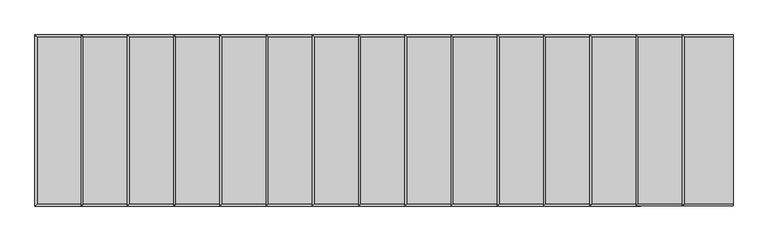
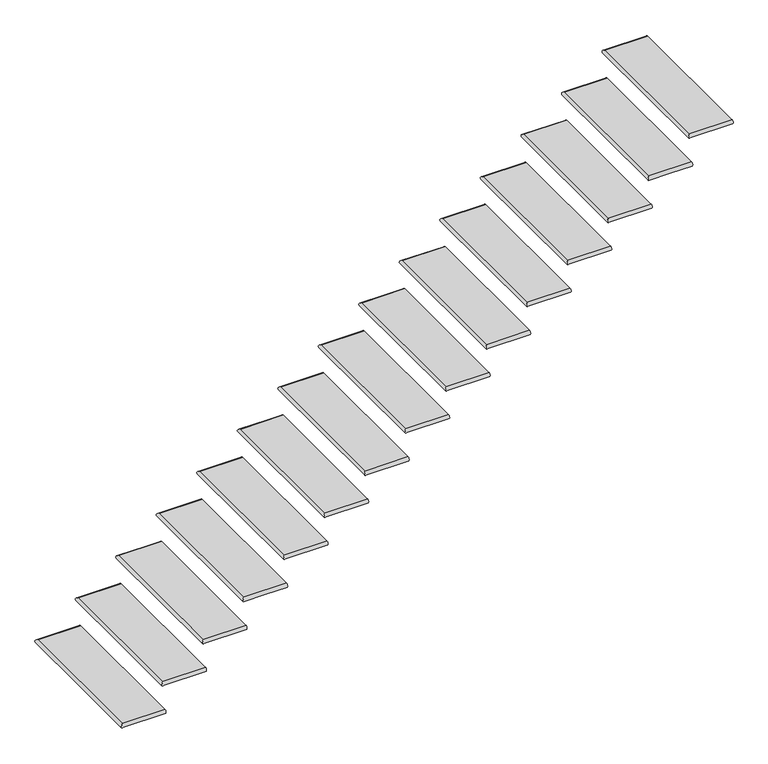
"""IFC4 building model written with IfcOpenShell, lengths in millimetres: stair flight geometry."""

import ifcopenshell
import ifcopenshell.guid

model = None  # the IFC model being written
_history = None  # IfcOwnerHistory: only IFC2X3 demands one
_inside = {}  # id of a spatial element -> (the spatial element, [elements in it])
_under = {}  # id of a project, library or spatial element -> (it, [spatial elements below it])
_declared = {}  # id of a project -> (the project, [libraries it declares])
_typed = {}  # id of a type object -> (the type object, [elements of that type])
_made_of = {}  # id of a material, layer set ... -> (it, [elements and type objects made of it])


def new_model(schema):
    """Start an empty IFC model of exactly this schema.

    Asked for "IFC4X3", IfcOpenShell would pick the latest addendum, in which some entities
    have other attributes; the version numbers below select the first issue.
    IFC2X3 requires an IfcOwnerHistory on every rooted entity: one is made here for all.
    """
    global model, _history
    if schema == "IFC4X3":
        model = ifcopenshell.file(schema_version=(4, 3, 0, 0))
    else:
        model = ifcopenshell.file(schema=schema)
    _inside.clear()
    _under.clear()
    _declared.clear()
    _typed.clear()
    _made_of.clear()
    _history = None
    if model.schema == "IFC2X3":
        org = make("IfcOrganization", Name="unknown")
        user = make(
            "IfcPersonAndOrganization",
            ThePerson=make("IfcPerson", FamilyName="unknown"),
            TheOrganization=org,
        )
        app = make(
            "IfcApplication",
            ApplicationDeveloper=org,
            Version="unknown",
            ApplicationFullName="unknown",
            ApplicationIdentifier="unknown",
        )
        _history = make(
            "IfcOwnerHistory",
            OwningUser=user,
            OwningApplication=app,
            ChangeAction="ADDED",
            CreationDate=0,
        )
    return model


def make(cls, **values):
    """One entity of the class cls with the attributes given. An attribute that is None is left unset."""
    return model.create_entity(
        cls, **{name: value for name, value in values.items() if value is not None}
    )


def rooted(cls, **values):
    """An entity with a GlobalId (a new one), such as an element, a storey or a relation."""
    return make(cls, GlobalId=ifcopenshell.guid.new(), OwnerHistory=_history, **values)


def si_unit(unit_type, name, prefix=None):
    """IfcSIUnit, for example si_unit("LENGTHUNIT", "METRE", prefix="MILLI")."""
    return make("IfcSIUnit", UnitType=unit_type, Prefix=prefix, Name=name)


def assignment(units):
    """IfcUnitAssignment: the units of a project."""
    return None if units is None else make("IfcUnitAssignment", Units=units)


def point(xyz):
    """IfcCartesianPoint."""
    return None if xyz is None else make("IfcCartesianPoint", Coordinates=xyz)


def direction(xyz):
    """IfcDirection."""
    return None if xyz is None else make("IfcDirection", DirectionRatios=xyz)


def frame(location, z_axis=None, x_axis=None):
    """IfcAxis2Placement3D, a coordinate frame: its origin and axes. An axis left out is left unset."""
    return make(
        "IfcAxis2Placement3D",
        Location=point(location),
        Axis=direction(z_axis),
        RefDirection=direction(x_axis),
    )


def origin():
    """The frame at (0, 0, 0) with its axes left unset."""
    return frame((0.0, 0.0, 0.0))


def place(relative_to, where):
    """IfcLocalPlacement: puts the frame where relative to a parent placement (None: the world)."""
    return make(
        "IfcLocalPlacement", PlacementRelTo=relative_to, RelativePlacement=where
    )


def context(
    kind, dimensions, precision=None, world=None, true_north=None, identifier=None
):
    """IfcGeometricRepresentationContext, for example the 3D "Model" context."""
    return make(
        "IfcGeometricRepresentationContext",
        ContextIdentifier=identifier,
        ContextType=kind,
        CoordinateSpaceDimension=dimensions,
        Precision=precision,
        WorldCoordinateSystem=world,
        TrueNorth=true_north,
    )


def project(units=None, contexts=None):
    """IfcProject with its units and contexts."""
    return rooted(
        "IfcProject",
        Name="project",
        RepresentationContexts=contexts,
        UnitsInContext=assignment(units),
    )


def spatial(cls, under=None, at=None, **own):
    """A site, building, storey or space (cls), placed at a placement, below another one or the project."""
    s = rooted(cls, ObjectPlacement=at, **own)
    if under is not None:
        _under.setdefault(under.id(), (under, []))[1].append(s)
    return s


def circle_curve(where, radius):
    """IfcCircle in the frame where."""
    return make("IfcCircle", Position=where, Radius=radius)


def ellipse_curve(where, semi_axis1, semi_axis2):
    """IfcEllipse in the frame where."""
    return make(
        "IfcEllipse", Position=where, SemiAxis1=semi_axis1, SemiAxis2=semi_axis2
    )


def shape(context_of_items, identifier, shape_type, items):
    """IfcShapeRepresentation: the items that make up one representation, for example the "Body"."""
    return make(
        "IfcShapeRepresentation",
        ContextOfItems=context_of_items,
        RepresentationIdentifier=identifier,
        RepresentationType=shape_type,
        Items=items,
    )


def source(mapping_origin, context_of_items, identifier, shape_type, items):
    """IfcRepresentationMap: a shape defined once, which mapped items show again and again."""
    return make(
        "IfcRepresentationMap",
        MappingOrigin=mapping_origin,
        MappedRepresentation=shape(context_of_items, identifier, shape_type, items),
    )


def transform(
    local_origin,
    x_axis=None,
    y_axis=None,
    z_axis=None,
    scale=None,
    scale2=None,
    scale3=None,
    uniform=True,
):
    """IfcCartesianTransformationOperator3D, or its non-uniform kind. x_axis, y_axis, z_axis: its Axis1, 2, 3."""
    if uniform:
        return make(
            "IfcCartesianTransformationOperator3D",
            Axis1=direction(x_axis),
            Axis2=direction(y_axis),
            LocalOrigin=point(local_origin),
            Scale=scale,
            Axis3=direction(z_axis),
        )
    return make(
        "IfcCartesianTransformationOperator3DnonUniform",
        Axis1=direction(x_axis),
        Axis2=direction(y_axis),
        LocalOrigin=point(local_origin),
        Scale=scale,
        Axis3=direction(z_axis),
        Scale2=scale2,
        Scale3=scale3,
    )


def mapped(mapping_source, mapping_target):
    """IfcMappedItem: shows the shape of a source again, moved by a transform."""
    return make(
        "IfcMappedItem", MappingSource=mapping_source, MappingTarget=mapping_target
    )


def made_of(thing, what):
    """Note that an element or type object is made of a material, layer set ...; save() writes the relation."""
    if what is not None:
        _made_of.setdefault(what.id(), (what, []))[1].append(thing)
    return thing


def element(
    cls,
    number,
    at=None,
    inside=None,
    cuts=None,
    type_object=None,
    material=None,
    context=None,
    identifier="Body",
    shape_type=None,
    held_by="IfcProductDefinitionShape",
    body=None,
    shapes=None,
    **own,
):
    """One element of the class cls, such as IfcWall. Its Tag is "e" and its number.

    at: its placement. inside: the storey or other place that contains it. cuts: it is an
    opening in that element (IfcRelVoidsElement). A single representation is given by context,
    identifier, shape_type and body (its items); several are given by shapes. held_by: the class
    of the entity that holds the representations. save() writes the other relations.
    """
    e = rooted(cls, Tag="e%d" % number, ObjectPlacement=at, **own)
    if body is not None:
        shapes = [shape(context, identifier, shape_type, body)]
    if shapes is not None:
        e.Representation = make(held_by, Representations=shapes)
    if inside is not None:
        _inside.setdefault(inside.id(), (inside, []))[1].append(e)
    if cuts is not None:
        rooted(
            "IfcRelVoidsElement", RelatingBuildingElement=cuts, RelatedOpeningElement=e
        )
    if type_object is not None:
        _typed.setdefault(type_object.id(), (type_object, []))[1].append(e)
    return made_of(e, material)


def aggregate(whole, parts):
    """IfcRelAggregates: a whole, such as a stair, and the parts it consists of."""
    return rooted("IfcRelAggregates", RelatingObject=whole, RelatedObjects=parts)


def save(model, path):
    """Write the relations noted so far, then the file.

    IfcRelAggregates (storeys below a building ...), IfcRelContainedInSpatialStructure (elements
    in a storey), IfcRelDefinesByType, IfcRelAssociatesMaterial and IfcRelDeclares: one each for
    every whole, place, type object, material and project.
    """
    for whole, parts in _under.values():
        aggregate(whole, parts)
    for where, things in _inside.values():
        rooted(
            "IfcRelContainedInSpatialStructure",
            RelatedElements=things,
            RelatingStructure=where,
        )
    for kind, things in _typed.values():
        rooted("IfcRelDefinesByType", RelatedObjects=things, RelatingType=kind)
    for what, things in _made_of.values():
        rooted("IfcRelAssociatesMaterial", RelatedObjects=things, RelatingMaterial=what)
    for by, libraries in _declared.values():
        rooted("IfcRelDeclares", RelatingContext=by, RelatedDefinitions=libraries)
    model.write(path)


def plane_surface(at):
    """IfcPlane: the flat surface through the origin of the frame at, square to its z axis."""
    return make("IfcPlane", Position=at)


def cylinder_surface(at, radius):
    """IfcCylindricalSurface: all points at the distance radius from the z axis of the frame at."""
    return make("IfcCylindricalSurface", Position=at, Radius=radius)


def advanced_brep(points, edges, surfaces, faces):
    """IfcAdvancedBrep: a solid bounded by faces that lie on surfaces and meet in shared edges.

    An edge is (start, end): straight between two places in points (the first is 0);
    or (start, end, curve); or (start, end, curve, False) where it runs against its curve.
    A face is (place in surfaces, loops), or (place, loops, False) where it looks against
    its surface's normal. A loop lists edges by number (the first is 1), with a minus sign
    where the edge is run from its end to its start. The first loop is the outer one.
    """
    corners = [point(p) for p in points]
    vertices = [make("IfcVertexPoint", VertexGeometry=c) for c in corners]
    made = []
    for start, end, *more in edges:
        made.append(
            make(
                "IfcEdgeCurve",
                EdgeStart=vertices[start],
                EdgeEnd=vertices[end],
                EdgeGeometry=more[0] if more else make("IfcPolyline", Points=[corners[start], corners[end]]),
                SameSense=more[1] if len(more) > 1 else True,
            )
        )
    hull = []
    for where, loops, *sense in faces:
        bounds = []
        for j, loop in enumerate(loops):
            ring = [make("IfcOrientedEdge", EdgeElement=made[abs(k) - 1], Orientation=k > 0) for k in loop]
            bounds.append(
                make(
                    "IfcFaceOuterBound" if j == 0 else "IfcFaceBound",
                    Bound=make("IfcEdgeLoop", EdgeList=ring),
                    Orientation=True,
                )
            )
        hull.append(make("IfcAdvancedFace", Bounds=bounds, FaceSurface=surfaces[where], SameSense=sense[0] if sense else True))
    return make("IfcAdvancedBrep", Outer=make("IfcClosedShell", CfsFaces=hull))


def stair_flight_c9529e75(model_context):
    return source(origin(), model_context, "Body", "AdvancedBrep", [
        advanced_brep(
        [(-27218.1481446, -11284.0871906, 165.1), (-27218.1481446, -11284.0871906, 190.5), (-27218.1481446, -10369.6871906, 190.5), (-27218.1481446, -10369.6871906, 165.1), (-26951.4481446, -11284.0871906, 190.5), (-26951.4481446, -10369.6871906, 190.5), (-26951.4481446, -10369.6871906, 165.1), (-26951.4481446, -11284.0871906, 165.1)],
        [
            (0, 1, ellipse_curve(frame((-27218.1481446, -11284.0871906, 177.8), z_axis=(-0.7071067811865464, 0.7071067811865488, 0.0), x_axis=(-0.7071067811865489, -0.707106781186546, 0.0)), 17.9605122, 12.7)),
            (1, 2),
            (2, 3, ellipse_curve(frame((-27218.1481446, -10369.6871906, 177.8), z_axis=(-0.7071067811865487, -0.7071067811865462, 0.0), x_axis=(0.7071067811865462, -0.707106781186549, 0.0)), 17.9605122, 12.7)),
            (3, 0),
            (4, 5),
            (5, 2),
            (1, 4),
            (6, 7),
            (7, 0),
            (3, 6),
            (4, 7, circle_curve(frame((-26951.4481446, -11284.0871906, 177.8), z_axis=(1.0, 0.0, 0.0), x_axis=(0.0, 1.0, 0.0)), 12.7)),
            (6, 5, circle_curve(frame((-26951.4481446, -10369.6871906, 177.8), z_axis=(1.0, 0.0, 0.0), x_axis=(0.0, -1.0, 0.0)), 12.7)),
        ],
        [
            cylinder_surface(frame((-27218.1481446, -11284.0871906, 177.8), z_axis=(0.0, -1.0, 0.0), x_axis=(1.0, 0.0, 0.0)), 12.7),
            plane_surface(frame((-27230.8481446, -10369.6871906, 190.5), z_axis=(0.0, 0.0, 1.0), x_axis=(-1.0, 0.0, 0.0))),
            plane_surface(frame((-27230.8481446, -10369.6871906, 165.1), z_axis=(0.0, 0.0, -1.0), x_axis=(1.0, 0.0, 0.0))),
            plane_surface(frame((-26951.4481446, -11284.0871906, 190.5), z_axis=(1.0, 0.0, 0.0), x_axis=(0.0, 0.0, -1.0))),
            cylinder_surface(frame((-26951.4481446, -11284.0871906, 177.8), z_axis=(1.0, 0.0, 0.0), x_axis=(0.0, 1.0, 0.0)), 12.7),
            cylinder_surface(frame((-27218.1481446, -10369.6871906, 177.8), z_axis=(-1.0, 0.0, 0.0), x_axis=(0.0, -1.0, 0.0)), 12.7),
        ],
        [
            (0, [[1, 2, 3, 4]]),
            (1, [[5, 6, -2, 7]]),
            (2, [[8, 9, -4, 10]]),
            (3, [[-5, 11, -8, 12]]),
            (4, [[-11, -7, -1, -9]]),
            (5, [[-3, -6, -12, -10]]),
        ],
    ),
        advanced_brep(
        [(-26697.4481446, -11284.0871906, 381.0), (-26697.4481446, -10369.6871906, 381.0), (-26964.1481446, -10369.6871906, 381.0), (-26964.1481446, -11284.0871906, 381.0), (-26697.4481446, -10369.6871906, 355.6), (-26697.4481446, -11284.0871906, 355.6), (-26964.1481446, -11284.0871906, 355.6), (-26964.1481446, -10369.6871906, 355.6)],
        [
            (0, 1),
            (1, 2),
            (2, 3),
            (3, 0),
            (4, 5),
            (5, 6),
            (6, 7),
            (7, 4),
            (0, 5, circle_curve(frame((-26697.4481446, -11284.0871906, 368.3), z_axis=(1.0, 0.0, 0.0), x_axis=(0.0, 1.0, 0.0)), 12.7)),
            (4, 1, circle_curve(frame((-26697.4481446, -10369.6871906, 368.3), z_axis=(1.0, 0.0, 0.0), x_axis=(0.0, -1.0, 0.0)), 12.7)),
            (3, 6, ellipse_curve(frame((-26964.1481446, -11284.0871906, 368.3), z_axis=(0.7071067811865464, -0.7071067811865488, 0.0), x_axis=(0.7071067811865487, 0.7071067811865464, 0.0)), 17.9605122, 12.7)),
            (2, 7, ellipse_curve(frame((-26964.1481446, -10369.6871906, 368.3), z_axis=(-0.7071067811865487, -0.7071067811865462, 0.0), x_axis=(0.7071067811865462, -0.707106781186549, 0.0)), 17.9605122, 12.7)),
        ],
        [
            plane_surface(frame((-26976.8481446, -10369.6871906, 381.0), z_axis=(0.0, 0.0, 1.0), x_axis=(-1.0, 0.0, 0.0))),
            plane_surface(frame((-26976.8481446, -10369.6871906, 355.6), z_axis=(0.0, 0.0, -1.0), x_axis=(1.0, 0.0, 0.0))),
            plane_surface(frame((-26697.4481446, -11284.0871906, 381.0), z_axis=(1.0, 0.0, 0.0), x_axis=(0.0, 0.0, -1.0))),
            cylinder_surface(frame((-26697.4481446, -11284.0871906, 368.3), z_axis=(1.0, 0.0, 0.0), x_axis=(0.0, 1.0, 0.0)), 12.7),
            cylinder_surface(frame((-26964.1481446, -11284.0871906, 368.3), z_axis=(0.0, -1.0, 0.0), x_axis=(1.0, 0.0, 0.0)), 12.7),
            cylinder_surface(frame((-26964.1481446, -10369.6871906, 368.3), z_axis=(-1.0, 0.0, 0.0), x_axis=(0.0, -1.0, 0.0)), 12.7),
        ],
        [
            (0, [[1, 2, 3, 4]]),
            (1, [[5, 6, 7, 8]]),
            (2, [[-1, 9, -5, 10]]),
            (3, [[-9, -4, 11, -6]]),
            (4, [[-11, -3, 12, -7]]),
            (5, [[-12, -2, -10, -8]]),
        ],
    ),
        advanced_brep(
        [(-26443.4481446, -11284.0871906, 571.5), (-26443.4481446, -10369.6871906, 571.5), (-26710.1481446, -10369.6871906, 571.5), (-26710.1481446, -11284.0871906, 571.5), (-26443.4481446, -10369.6871906, 546.1), (-26443.4481446, -11284.0871906, 546.1), (-26710.1481446, -11284.0871906, 546.1), (-26710.1481446, -10369.6871906, 546.1)],
        [
            (0, 1),
            (1, 2),
            (2, 3),
            (3, 0),
            (4, 5),
            (5, 6),
            (6, 7),
            (7, 4),
            (0, 5, circle_curve(frame((-26443.4481446, -11284.0871906, 558.8), z_axis=(1.0, 0.0, 0.0), x_axis=(0.0, 1.0, 0.0)), 12.7)),
            (4, 1, circle_curve(frame((-26443.4481446, -10369.6871906, 558.8), z_axis=(1.0, 0.0, 0.0), x_axis=(0.0, -1.0, 0.0)), 12.7)),
            (3, 6, ellipse_curve(frame((-26710.1481446, -11284.0871906, 558.8), z_axis=(0.7071067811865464, -0.7071067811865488, 0.0), x_axis=(0.7071067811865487, 0.7071067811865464, 0.0)), 17.9605122, 12.7)),
            (2, 7, ellipse_curve(frame((-26710.1481446, -10369.6871906, 558.8), z_axis=(-0.7071067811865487, -0.7071067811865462, 0.0), x_axis=(0.7071067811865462, -0.707106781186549, 0.0)), 17.9605122, 12.7)),
        ],
        [
            plane_surface(frame((-26722.8481446, -10369.6871906, 571.5), z_axis=(0.0, 0.0, 1.0), x_axis=(-1.0, 0.0, 0.0))),
            plane_surface(frame((-26722.8481446, -10369.6871906, 546.1), z_axis=(0.0, 0.0, -1.0), x_axis=(1.0, 0.0, 0.0))),
            plane_surface(frame((-26443.4481446, -11284.0871906, 571.5), z_axis=(1.0, 0.0, 0.0), x_axis=(0.0, 0.0, -1.0))),
            cylinder_surface(frame((-26443.4481446, -11284.0871906, 558.8), z_axis=(1.0, 0.0, 0.0), x_axis=(0.0, 1.0, 0.0)), 12.7),
            cylinder_surface(frame((-26710.1481446, -11284.0871906, 558.8), z_axis=(0.0, -1.0, 0.0), x_axis=(1.0, 0.0, 0.0)), 12.7),
            cylinder_surface(frame((-26710.1481446, -10369.6871906, 558.8), z_axis=(-1.0, 0.0, 0.0), x_axis=(0.0, -1.0, 0.0)), 12.7),
        ],
        [
            (0, [[1, 2, 3, 4]]),
            (1, [[5, 6, 7, 8]]),
            (2, [[-1, 9, -5, 10]]),
            (3, [[-9, -4, 11, -6]]),
            (4, [[-11, -3, 12, -7]]),
            (5, [[-12, -2, -10, -8]]),
        ],
    ),
        advanced_brep(
        [(-26189.4481446, -11284.0871906, 762.0), (-26189.4481446, -10369.6871906, 762.0), (-26456.1481446, -10369.6871906, 762.0), (-26456.1481446, -11284.0871906, 762.0), (-26189.4481446, -10369.6871906, 736.6), (-26189.4481446, -11284.0871906, 736.6), (-26456.1481446, -11284.0871906, 736.6), (-26456.1481446, -10369.6871906, 736.6)],
        [
            (0, 1),
            (1, 2),
            (2, 3),
            (3, 0),
            (4, 5),
            (5, 6),
            (6, 7),
            (7, 4),
            (0, 5, circle_curve(frame((-26189.4481446, -11284.0871906, 749.3), z_axis=(1.0, 0.0, 0.0), x_axis=(0.0, 1.0, 0.0)), 12.7)),
            (4, 1, circle_curve(frame((-26189.4481446, -10369.6871906, 749.3), z_axis=(1.0, 0.0, 0.0), x_axis=(0.0, -1.0, 0.0)), 12.7)),
            (3, 6, ellipse_curve(frame((-26456.1481446, -11284.0871906, 749.3), z_axis=(0.7071067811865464, -0.7071067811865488, 0.0), x_axis=(0.7071067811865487, 0.7071067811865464, 0.0)), 17.9605122, 12.7)),
            (2, 7, ellipse_curve(frame((-26456.1481446, -10369.6871906, 749.3), z_axis=(-0.7071067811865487, -0.7071067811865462, 0.0), x_axis=(0.7071067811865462, -0.707106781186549, 0.0)), 17.9605122, 12.7)),
        ],
        [
            plane_surface(frame((-26468.8481446, -10369.6871906, 762.0), z_axis=(0.0, 0.0, 1.0), x_axis=(-1.0, 0.0, 0.0))),
            plane_surface(frame((-26468.8481446, -10369.6871906, 736.6), z_axis=(0.0, 0.0, -1.0), x_axis=(1.0, 0.0, 0.0))),
            plane_surface(frame((-26189.4481446, -11284.0871906, 762.0), z_axis=(1.0, 0.0, 0.0), x_axis=(0.0, 0.0, -1.0))),
            cylinder_surface(frame((-26189.4481446, -11284.0871906, 749.3), z_axis=(1.0, 0.0, 0.0), x_axis=(0.0, 1.0, 0.0)), 12.7),
            cylinder_surface(frame((-26456.1481446, -11284.0871906, 749.3), z_axis=(0.0, -1.0, 0.0), x_axis=(1.0, 0.0, 0.0)), 12.7),
            cylinder_surface(frame((-26456.1481446, -10369.6871906, 749.3), z_axis=(-1.0, 0.0, 0.0), x_axis=(0.0, -1.0, 0.0)), 12.7),
        ],
        [
            (0, [[1, 2, 3, 4]]),
            (1, [[5, 6, 7, 8]]),
            (2, [[-1, 9, -5, 10]]),
            (3, [[-9, -4, 11, -6]]),
            (4, [[-11, -3, 12, -7]]),
            (5, [[-12, -2, -10, -8]]),
        ],
    ),
        advanced_brep(
        [(-25935.4481446, -11284.0871906, 952.5), (-25935.4481446, -10369.6871906, 952.5), (-26202.1481446, -10369.6871906, 952.5), (-26202.1481446, -11284.0871906, 952.5), (-25935.4481446, -10369.6871906, 927.1), (-25935.4481446, -11284.0871906, 927.1), (-26202.1481446, -11284.0871906, 927.1), (-26202.1481446, -10369.6871906, 927.1)],
        [
            (0, 1),
            (1, 2),
            (2, 3),
            (3, 0),
            (4, 5),
            (5, 6),
            (6, 7),
            (7, 4),
            (0, 5, circle_curve(frame((-25935.4481446, -11284.0871906, 939.8), z_axis=(1.0, 0.0, 0.0), x_axis=(0.0, 1.0, 0.0)), 12.7)),
            (4, 1, circle_curve(frame((-25935.4481446, -10369.6871906, 939.8), z_axis=(1.0, 0.0, 0.0), x_axis=(0.0, -1.0, 0.0)), 12.7)),
            (3, 6, ellipse_curve(frame((-26202.1481446, -11284.0871906, 939.8), z_axis=(0.7071067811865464, -0.7071067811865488, 0.0), x_axis=(0.7071067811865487, 0.7071067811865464, 0.0)), 17.9605122, 12.7)),
            (2, 7, ellipse_curve(frame((-26202.1481446, -10369.6871906, 939.8), z_axis=(-0.7071067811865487, -0.7071067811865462, 0.0), x_axis=(0.7071067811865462, -0.707106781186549, 0.0)), 17.9605122, 12.7)),
        ],
        [
            plane_surface(frame((-26214.8481446, -10369.6871906, 952.5), z_axis=(0.0, 0.0, 1.0), x_axis=(-1.0, 0.0, 0.0))),
            plane_surface(frame((-26214.8481446, -10369.6871906, 927.1), z_axis=(0.0, 0.0, -1.0), x_axis=(1.0, 0.0, 0.0))),
            plane_surface(frame((-25935.4481446, -11284.0871906, 952.5), z_axis=(1.0, 0.0, 0.0), x_axis=(0.0, 0.0, -1.0))),
            cylinder_surface(frame((-25935.4481446, -11284.0871906, 939.8), z_axis=(1.0, 0.0, 0.0), x_axis=(0.0, 1.0, 0.0)), 12.7),
            cylinder_surface(frame((-26202.1481446, -11284.0871906, 939.8), z_axis=(0.0, -1.0, 0.0), x_axis=(1.0, 0.0, 0.0)), 12.7),
            cylinder_surface(frame((-26202.1481446, -10369.6871906, 939.8), z_axis=(-1.0, 0.0, 0.0), x_axis=(0.0, -1.0, 0.0)), 12.7),
        ],
        [
            (0, [[1, 2, 3, 4]]),
            (1, [[5, 6, 7, 8]]),
            (2, [[-1, 9, -5, 10]]),
            (3, [[-9, -4, 11, -6]]),
            (4, [[-11, -3, 12, -7]]),
            (5, [[-12, -2, -10, -8]]),
        ],
    ),
        advanced_brep(
        [(-25681.4481446, -11284.0871906, 1143.0), (-25681.4481446, -10369.6871906, 1143.0), (-25948.1481446, -10369.6871906, 1143.0), (-25948.1481446, -11284.0871906, 1143.0), (-25681.4481446, -10369.6871906, 1117.6), (-25681.4481446, -11284.0871906, 1117.6), (-25948.1481446, -11284.0871906, 1117.6), (-25948.1481446, -10369.6871906, 1117.6)],
        [
            (0, 1),
            (1, 2),
            (2, 3),
            (3, 0),
            (4, 5),
            (5, 6),
            (6, 7),
            (7, 4),
            (0, 5, circle_curve(frame((-25681.4481446, -11284.0871906, 1130.3), z_axis=(1.0, 0.0, 0.0), x_axis=(0.0, 1.0, 0.0)), 12.7)),
            (4, 1, circle_curve(frame((-25681.4481446, -10369.6871906, 1130.3), z_axis=(1.0, 0.0, 0.0), x_axis=(0.0, -1.0, 0.0)), 12.7)),
            (3, 6, ellipse_curve(frame((-25948.1481446, -11284.0871906, 1130.3), z_axis=(0.7071067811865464, -0.7071067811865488, 0.0), x_axis=(0.7071067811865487, 0.7071067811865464, 0.0)), 17.9605122, 12.7)),
            (2, 7, ellipse_curve(frame((-25948.1481446, -10369.6871906, 1130.3), z_axis=(-0.7071067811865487, -0.7071067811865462, 0.0), x_axis=(0.7071067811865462, -0.707106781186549, 0.0)), 17.9605122, 12.7)),
        ],
        [
            plane_surface(frame((-25960.8481446, -10369.6871906, 1143.0), z_axis=(0.0, 0.0, 1.0), x_axis=(-1.0, 0.0, 0.0))),
            plane_surface(frame((-25960.8481446, -10369.6871906, 1117.6), z_axis=(0.0, 0.0, -1.0), x_axis=(1.0, 0.0, 0.0))),
            plane_surface(frame((-25681.4481446, -11284.0871906, 1143.0), z_axis=(1.0, 0.0, 0.0), x_axis=(0.0, 0.0, -1.0))),
            cylinder_surface(frame((-25681.4481446, -11284.0871906, 1130.3), z_axis=(1.0, 0.0, 0.0), x_axis=(0.0, 1.0, 0.0)), 12.7),
            cylinder_surface(frame((-25948.1481446, -11284.0871906, 1130.3), z_axis=(0.0, -1.0, 0.0), x_axis=(1.0, 0.0, 0.0)), 12.7),
            cylinder_surface(frame((-25948.1481446, -10369.6871906, 1130.3), z_axis=(-1.0, 0.0, 0.0), x_axis=(0.0, -1.0, 0.0)), 12.7),
        ],
        [
            (0, [[1, 2, 3, 4]]),
            (1, [[5, 6, 7, 8]]),
            (2, [[-1, 9, -5, 10]]),
            (3, [[-9, -4, 11, -6]]),
            (4, [[-11, -3, 12, -7]]),
            (5, [[-12, -2, -10, -8]]),
        ],
    ),
        advanced_brep(
        [(-25427.4481446, -11284.0871906, 1333.5), (-25427.4481446, -10369.6871906, 1333.5), (-25694.1481446, -10369.6871906, 1333.5), (-25694.1481446, -11284.0871906, 1333.5), (-25427.4481446, -10369.6871906, 1308.1), (-25427.4481446, -11284.0871906, 1308.1), (-25694.1481446, -11284.0871906, 1308.1), (-25694.1481446, -10369.6871906, 1308.1)],
        [
            (0, 1),
            (1, 2),
            (2, 3),
            (3, 0),
            (4, 5),
            (5, 6),
            (6, 7),
            (7, 4),
            (0, 5, circle_curve(frame((-25427.4481446, -11284.0871906, 1320.8), z_axis=(1.0, 0.0, 0.0), x_axis=(0.0, 1.0, 0.0)), 12.7)),
            (4, 1, circle_curve(frame((-25427.4481446, -10369.6871906, 1320.8), z_axis=(1.0, 0.0, 0.0), x_axis=(0.0, -1.0, 0.0)), 12.7)),
            (3, 6, ellipse_curve(frame((-25694.1481446, -11284.0871906, 1320.8), z_axis=(0.7071067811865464, -0.7071067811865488, 0.0), x_axis=(0.7071067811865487, 0.7071067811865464, 0.0)), 17.9605122, 12.7)),
            (2, 7, ellipse_curve(frame((-25694.1481446, -10369.6871906, 1320.8), z_axis=(-0.7071067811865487, -0.7071067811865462, 0.0), x_axis=(0.7071067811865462, -0.707106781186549, 0.0)), 17.9605122, 12.7)),
        ],
        [
            plane_surface(frame((-25706.8481446, -10369.6871906, 1333.5), z_axis=(0.0, 0.0, 1.0), x_axis=(-1.0, 0.0, 0.0))),
            plane_surface(frame((-25706.8481446, -10369.6871906, 1308.1), z_axis=(0.0, 0.0, -1.0), x_axis=(1.0, 0.0, 0.0))),
            plane_surface(frame((-25427.4481446, -11284.0871906, 1333.5), z_axis=(1.0, 0.0, 0.0), x_axis=(0.0, 0.0, -1.0))),
            cylinder_surface(frame((-25427.4481446, -11284.0871906, 1320.8), z_axis=(1.0, 0.0, 0.0), x_axis=(0.0, 1.0, 0.0)), 12.7),
            cylinder_surface(frame((-25694.1481446, -11284.0871906, 1320.8), z_axis=(0.0, -1.0, 0.0), x_axis=(1.0, 0.0, 0.0)), 12.7),
            cylinder_surface(frame((-25694.1481446, -10369.6871906, 1320.8), z_axis=(-1.0, 0.0, 0.0), x_axis=(0.0, -1.0, 0.0)), 12.7),
        ],
        [
            (0, [[1, 2, 3, 4]]),
            (1, [[5, 6, 7, 8]]),
            (2, [[-1, 9, -5, 10]]),
            (3, [[-9, -4, 11, -6]]),
            (4, [[-11, -3, 12, -7]]),
            (5, [[-12, -2, -10, -8]]),
        ],
    ),
        advanced_brep(
        [(-25173.4481446, -11284.0871906, 1524.0), (-25173.4481446, -10369.6871906, 1524.0), (-25440.1481446, -10369.6871906, 1524.0), (-25440.1481446, -11284.0871906, 1524.0), (-25173.4481446, -10369.6871906, 1498.6), (-25173.4481446, -11284.0871906, 1498.6), (-25440.1481446, -11284.0871906, 1498.6), (-25440.1481446, -10369.6871906, 1498.6)],
        [
            (0, 1),
            (1, 2),
            (2, 3),
            (3, 0),
            (4, 5),
            (5, 6),
            (6, 7),
            (7, 4),
            (0, 5, circle_curve(frame((-25173.4481446, -11284.0871906, 1511.3), z_axis=(1.0, 0.0, 0.0), x_axis=(0.0, 1.0, 0.0)), 12.7)),
            (4, 1, circle_curve(frame((-25173.4481446, -10369.6871906, 1511.3), z_axis=(1.0, 0.0, 0.0), x_axis=(0.0, -1.0, 0.0)), 12.7)),
            (3, 6, ellipse_curve(frame((-25440.1481446, -11284.0871906, 1511.3), z_axis=(0.7071067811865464, -0.7071067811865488, 0.0), x_axis=(0.7071067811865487, 0.7071067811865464, 0.0)), 17.9605122, 12.7)),
            (2, 7, ellipse_curve(frame((-25440.1481446, -10369.6871906, 1511.3), z_axis=(-0.7071067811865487, -0.7071067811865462, 0.0), x_axis=(0.7071067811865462, -0.707106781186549, 0.0)), 17.9605122, 12.7)),
        ],
        [
            plane_surface(frame((-25452.8481446, -10369.6871906, 1524.0), z_axis=(0.0, 0.0, 1.0), x_axis=(-1.0, 0.0, 0.0))),
            plane_surface(frame((-25452.8481446, -10369.6871906, 1498.6), z_axis=(0.0, 0.0, -1.0), x_axis=(1.0, 0.0, 0.0))),
            plane_surface(frame((-25173.4481446, -11284.0871906, 1524.0), z_axis=(1.0, 0.0, 0.0), x_axis=(0.0, 0.0, -1.0))),
            cylinder_surface(frame((-25173.4481446, -11284.0871906, 1511.3), z_axis=(1.0, 0.0, 0.0), x_axis=(0.0, 1.0, 0.0)), 12.7),
            cylinder_surface(frame((-25440.1481446, -11284.0871906, 1511.3), z_axis=(0.0, -1.0, 0.0), x_axis=(1.0, 0.0, 0.0)), 12.7),
            cylinder_surface(frame((-25440.1481446, -10369.6871906, 1511.3), z_axis=(-1.0, 0.0, 0.0), x_axis=(0.0, -1.0, 0.0)), 12.7),
        ],
        [
            (0, [[1, 2, 3, 4]]),
            (1, [[5, 6, 7, 8]]),
            (2, [[-1, 9, -5, 10]]),
            (3, [[-9, -4, 11, -6]]),
            (4, [[-11, -3, 12, -7]]),
            (5, [[-12, -2, -10, -8]]),
        ],
    ),
        advanced_brep(
        [(-24919.4481446, -11284.0871906, 1714.5), (-24919.4481446, -10369.6871906, 1714.5), (-25186.1481446, -10369.6871906, 1714.5), (-25186.1481446, -11284.0871906, 1714.5), (-24919.4481446, -10369.6871906, 1689.1), (-24919.4481446, -11284.0871906, 1689.1), (-25186.1481446, -11284.0871906, 1689.1), (-25186.1481446, -10369.6871906, 1689.1)],
        [
            (0, 1),
            (1, 2),
            (2, 3),
            (3, 0),
            (4, 5),
            (5, 6),
            (6, 7),
            (7, 4),
            (0, 5, circle_curve(frame((-24919.4481446, -11284.0871906, 1701.8), z_axis=(1.0, 0.0, 0.0), x_axis=(0.0, 1.0, 0.0)), 12.7)),
            (4, 1, circle_curve(frame((-24919.4481446, -10369.6871906, 1701.8), z_axis=(1.0, 0.0, 0.0), x_axis=(0.0, -1.0, 0.0)), 12.7)),
            (3, 6, ellipse_curve(frame((-25186.1481446, -11284.0871906, 1701.8), z_axis=(0.7071067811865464, -0.7071067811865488, 0.0), x_axis=(0.7071067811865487, 0.7071067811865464, 0.0)), 17.9605122, 12.7)),
            (2, 7, ellipse_curve(frame((-25186.1481446, -10369.6871906, 1701.8), z_axis=(-0.7071067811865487, -0.7071067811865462, 0.0), x_axis=(0.7071067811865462, -0.707106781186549, 0.0)), 17.9605122, 12.7)),
        ],
        [
            plane_surface(frame((-25198.8481446, -10369.6871906, 1714.5), z_axis=(0.0, 0.0, 1.0), x_axis=(-1.0, 0.0, 0.0))),
            plane_surface(frame((-25198.8481446, -10369.6871906, 1689.1), z_axis=(0.0, 0.0, -1.0), x_axis=(1.0, 0.0, 0.0))),
            plane_surface(frame((-24919.4481446, -11284.0871906, 1714.5), z_axis=(1.0, 0.0, 0.0), x_axis=(0.0, 0.0, -1.0))),
            cylinder_surface(frame((-24919.4481446, -11284.0871906, 1701.8), z_axis=(1.0, 0.0, 0.0), x_axis=(0.0, 1.0, 0.0)), 12.7),
            cylinder_surface(frame((-25186.1481446, -11284.0871906, 1701.8), z_axis=(0.0, -1.0, 0.0), x_axis=(1.0, 0.0, 0.0)), 12.7),
            cylinder_surface(frame((-25186.1481446, -10369.6871906, 1701.8), z_axis=(-1.0, 0.0, 0.0), x_axis=(0.0, -1.0, 0.0)), 12.7),
        ],
        [
            (0, [[1, 2, 3, 4]]),
            (1, [[5, 6, 7, 8]]),
            (2, [[-1, 9, -5, 10]]),
            (3, [[-9, -4, 11, -6]]),
            (4, [[-11, -3, 12, -7]]),
            (5, [[-12, -2, -10, -8]]),
        ],
    ),
        advanced_brep(
        [(-24665.4481446, -11284.0871906, 1905.0), (-24665.4481446, -10369.6871906, 1905.0), (-24932.1481446, -10369.6871906, 1905.0), (-24932.1481446, -11284.0871906, 1905.0), (-24665.4481446, -10369.6871906, 1879.6), (-24665.4481446, -11284.0871906, 1879.6), (-24932.1481446, -11284.0871906, 1879.6), (-24932.1481446, -10369.6871906, 1879.6)],
        [
            (0, 1),
            (1, 2),
            (2, 3),
            (3, 0),
            (4, 5),
            (5, 6),
            (6, 7),
            (7, 4),
            (0, 5, circle_curve(frame((-24665.4481446, -11284.0871906, 1892.3), z_axis=(1.0, 0.0, 0.0), x_axis=(0.0, 1.0, 0.0)), 12.7)),
            (4, 1, circle_curve(frame((-24665.4481446, -10369.6871906, 1892.3), z_axis=(1.0, 0.0, 0.0), x_axis=(0.0, -1.0, 0.0)), 12.7)),
            (3, 6, ellipse_curve(frame((-24932.1481446, -11284.0871906, 1892.3), z_axis=(0.7071067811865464, -0.7071067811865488, 0.0), x_axis=(0.7071067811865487, 0.7071067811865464, 0.0)), 17.9605122, 12.7)),
            (2, 7, ellipse_curve(frame((-24932.1481446, -10369.6871906, 1892.3), z_axis=(-0.7071067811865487, -0.7071067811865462, 0.0), x_axis=(0.7071067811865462, -0.707106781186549, 0.0)), 17.9605122, 12.7)),
        ],
        [
            plane_surface(frame((-24944.8481446, -10369.6871906, 1905.0), z_axis=(0.0, 0.0, 1.0), x_axis=(-1.0, 0.0, 0.0))),
            plane_surface(frame((-24944.8481446, -10369.6871906, 1879.6), z_axis=(0.0, 0.0, -1.0), x_axis=(1.0, 0.0, 0.0))),
            plane_surface(frame((-24665.4481446, -11284.0871906, 1905.0), z_axis=(1.0, 0.0, 0.0), x_axis=(0.0, 0.0, -1.0))),
            cylinder_surface(frame((-24665.4481446, -11284.0871906, 1892.3), z_axis=(1.0, 0.0, 0.0), x_axis=(0.0, 1.0, 0.0)), 12.7),
            cylinder_surface(frame((-24932.1481446, -11284.0871906, 1892.3), z_axis=(0.0, -1.0, 0.0), x_axis=(1.0, 0.0, 0.0)), 12.7),
            cylinder_surface(frame((-24932.1481446, -10369.6871906, 1892.3), z_axis=(-1.0, 0.0, 0.0), x_axis=(0.0, -1.0, 0.0)), 12.7),
        ],
        [
            (0, [[1, 2, 3, 4]]),
            (1, [[5, 6, 7, 8]]),
            (2, [[-1, 9, -5, 10]]),
            (3, [[-9, -4, 11, -6]]),
            (4, [[-11, -3, 12, -7]]),
            (5, [[-12, -2, -10, -8]]),
        ],
    ),
        advanced_brep(
        [(-24411.4481446, -11284.0871906, 2095.5), (-24411.4481446, -10369.6871906, 2095.5), (-24678.1481446, -10369.6871906, 2095.5), (-24678.1481446, -11284.0871906, 2095.5), (-24411.4481446, -10369.6871906, 2070.1), (-24411.4481446, -11284.0871906, 2070.1), (-24678.1481446, -11284.0871906, 2070.1), (-24678.1481446, -10369.6871906, 2070.1)],
        [
            (0, 1),
            (1, 2),
            (2, 3),
            (3, 0),
            (4, 5),
            (5, 6),
            (6, 7),
            (7, 4),
            (0, 5, circle_curve(frame((-24411.4481446, -11284.0871906, 2082.8), z_axis=(1.0, 0.0, 0.0), x_axis=(0.0, 1.0, 0.0)), 12.7)),
            (4, 1, circle_curve(frame((-24411.4481446, -10369.6871906, 2082.8), z_axis=(1.0, 0.0, 0.0), x_axis=(0.0, -1.0, 0.0)), 12.7)),
            (3, 6, ellipse_curve(frame((-24678.1481446, -11284.0871906, 2082.8), z_axis=(0.7071067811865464, -0.7071067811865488, 0.0), x_axis=(0.7071067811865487, 0.7071067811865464, 0.0)), 17.9605122, 12.7)),
            (2, 7, ellipse_curve(frame((-24678.1481446, -10369.6871906, 2082.8), z_axis=(-0.7071067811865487, -0.7071067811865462, 0.0), x_axis=(0.7071067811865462, -0.707106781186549, 0.0)), 17.9605122, 12.7)),
        ],
        [
            plane_surface(frame((-24690.8481446, -10369.6871906, 2095.5), z_axis=(0.0, 0.0, 1.0), x_axis=(-1.0, 0.0, 0.0))),
            plane_surface(frame((-24690.8481446, -10369.6871906, 2070.1), z_axis=(0.0, 0.0, -1.0), x_axis=(1.0, 0.0, 0.0))),
            plane_surface(frame((-24411.4481446, -11284.0871906, 2095.5), z_axis=(1.0, 0.0, 0.0), x_axis=(0.0, 0.0, -1.0))),
            cylinder_surface(frame((-24411.4481446, -11284.0871906, 2082.8), z_axis=(1.0, 0.0, 0.0), x_axis=(0.0, 1.0, 0.0)), 12.7),
            cylinder_surface(frame((-24678.1481446, -11284.0871906, 2082.8), z_axis=(0.0, -1.0, 0.0), x_axis=(1.0, 0.0, 0.0)), 12.7),
            cylinder_surface(frame((-24678.1481446, -10369.6871906, 2082.8), z_axis=(-1.0, 0.0, 0.0), x_axis=(0.0, -1.0, 0.0)), 12.7),
        ],
        [
            (0, [[1, 2, 3, 4]]),
            (1, [[5, 6, 7, 8]]),
            (2, [[-1, 9, -5, 10]]),
            (3, [[-9, -4, 11, -6]]),
            (4, [[-11, -3, 12, -7]]),
            (5, [[-12, -2, -10, -8]]),
        ],
    ),
        advanced_brep(
        [(-24157.4481446, -11284.0871906, 2286.0), (-24157.4481446, -10369.6871906, 2286.0), (-24424.1481446, -10369.6871906, 2286.0), (-24424.1481446, -11284.0871906, 2286.0), (-24157.4481446, -10369.6871906, 2260.6), (-24157.4481446, -11284.0871906, 2260.6), (-24424.1481446, -11284.0871906, 2260.6), (-24424.1481446, -10369.6871906, 2260.6)],
        [
            (0, 1),
            (1, 2),
            (2, 3),
            (3, 0),
            (4, 5),
            (5, 6),
            (6, 7),
            (7, 4),
            (0, 5, circle_curve(frame((-24157.4481446, -11284.0871906, 2273.3), z_axis=(1.0, 0.0, 0.0), x_axis=(0.0, 1.0, 0.0)), 12.7)),
            (4, 1, circle_curve(frame((-24157.4481446, -10369.6871906, 2273.3), z_axis=(1.0, 0.0, 0.0), x_axis=(0.0, -1.0, 0.0)), 12.7)),
            (3, 6, ellipse_curve(frame((-24424.1481446, -11284.0871906, 2273.3), z_axis=(0.7071067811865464, -0.7071067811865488, 0.0), x_axis=(0.7071067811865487, 0.7071067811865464, 0.0)), 17.9605122, 12.7)),
            (2, 7, ellipse_curve(frame((-24424.1481446, -10369.6871906, 2273.3), z_axis=(-0.7071067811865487, -0.7071067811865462, 0.0), x_axis=(0.7071067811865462, -0.707106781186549, 0.0)), 17.9605122, 12.7)),
        ],
        [
            plane_surface(frame((-24436.8481446, -10369.6871906, 2286.0), z_axis=(0.0, 0.0, 1.0), x_axis=(-1.0, 0.0, 0.0))),
            plane_surface(frame((-24436.8481446, -10369.6871906, 2260.6), z_axis=(0.0, 0.0, -1.0), x_axis=(1.0, 0.0, 0.0))),
            plane_surface(frame((-24157.4481446, -11284.0871906, 2286.0), z_axis=(1.0, 0.0, 0.0), x_axis=(0.0, 0.0, -1.0))),
            cylinder_surface(frame((-24157.4481446, -11284.0871906, 2273.3), z_axis=(1.0, 0.0, 0.0), x_axis=(0.0, 1.0, 0.0)), 12.7),
            cylinder_surface(frame((-24424.1481446, -11284.0871906, 2273.3), z_axis=(0.0, -1.0, 0.0), x_axis=(1.0, 0.0, 0.0)), 12.7),
            cylinder_surface(frame((-24424.1481446, -10369.6871906, 2273.3), z_axis=(-1.0, 0.0, 0.0), x_axis=(0.0, -1.0, 0.0)), 12.7),
        ],
        [
            (0, [[1, 2, 3, 4]]),
            (1, [[5, 6, 7, 8]]),
            (2, [[-1, 9, -5, 10]]),
            (3, [[-9, -4, 11, -6]]),
            (4, [[-11, -3, 12, -7]]),
            (5, [[-12, -2, -10, -8]]),
        ],
    ),
        advanced_brep(
        [(-23903.4481446, -11284.0871906, 2476.5), (-23903.4481446, -10369.6871906, 2476.5), (-24170.1481446, -10369.6871906, 2476.5), (-24170.1481446, -11284.0871906, 2476.5), (-23903.4481446, -10369.6871906, 2451.1), (-23903.4481446, -11284.0871906, 2451.1), (-24170.1481446, -11284.0871906, 2451.1), (-24170.1481446, -10369.6871906, 2451.1)],
        [
            (0, 1),
            (1, 2),
            (2, 3),
            (3, 0),
            (4, 5),
            (5, 6),
            (6, 7),
            (7, 4),
            (0, 5, circle_curve(frame((-23903.4481446, -11284.0871906, 2463.8), z_axis=(1.0, 0.0, 0.0), x_axis=(0.0, 1.0, 0.0)), 12.7)),
            (4, 1, circle_curve(frame((-23903.4481446, -10369.6871906, 2463.8), z_axis=(1.0, 0.0, 0.0), x_axis=(0.0, -1.0, 0.0)), 12.7)),
            (3, 6, ellipse_curve(frame((-24170.1481446, -11284.0871906, 2463.8), z_axis=(0.7071067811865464, -0.7071067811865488, 0.0), x_axis=(0.7071067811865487, 0.7071067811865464, 0.0)), 17.9605122, 12.7)),
            (2, 7, ellipse_curve(frame((-24170.1481446, -10369.6871906, 2463.8), z_axis=(-0.7071067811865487, -0.7071067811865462, 0.0), x_axis=(0.7071067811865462, -0.707106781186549, 0.0)), 17.9605122, 12.7)),
        ],
        [
            plane_surface(frame((-24182.8481446, -10369.6871906, 2476.5), z_axis=(0.0, 0.0, 1.0), x_axis=(-1.0, 0.0, 0.0))),
            plane_surface(frame((-24182.8481446, -10369.6871906, 2451.1), z_axis=(0.0, 0.0, -1.0), x_axis=(1.0, 0.0, 0.0))),
            plane_surface(frame((-23903.4481446, -11284.0871906, 2476.5), z_axis=(1.0, 0.0, 0.0), x_axis=(0.0, 0.0, -1.0))),
            cylinder_surface(frame((-23903.4481446, -11284.0871906, 2463.8), z_axis=(1.0, 0.0, 0.0), x_axis=(0.0, 1.0, 0.0)), 12.7),
            cylinder_surface(frame((-24170.1481446, -11284.0871906, 2463.8), z_axis=(0.0, -1.0, 0.0), x_axis=(1.0, 0.0, 0.0)), 12.7),
            cylinder_surface(frame((-24170.1481446, -10369.6871906, 2463.8), z_axis=(-1.0, 0.0, 0.0), x_axis=(0.0, -1.0, 0.0)), 12.7),
        ],
        [
            (0, [[1, 2, 3, 4]]),
            (1, [[5, 6, 7, 8]]),
            (2, [[-1, 9, -5, 10]]),
            (3, [[-9, -4, 11, -6]]),
            (4, [[-11, -3, 12, -7]]),
            (5, [[-12, -2, -10, -8]]),
        ],
    ),
        advanced_brep(
        [(-23649.4481446, -11284.0871906, 2667.0), (-23649.4481446, -10369.6871906, 2667.0), (-23916.1481446, -10369.6871906, 2667.0), (-23916.1481446, -11284.0871906, 2667.0), (-23649.4481446, -10369.6871906, 2641.6), (-23649.4481446, -11284.0871906, 2641.6), (-23916.1481446, -11284.0871906, 2641.6), (-23916.1481446, -10369.6871906, 2641.6)],
        [
            (0, 1),
            (1, 2),
            (2, 3),
            (3, 0),
            (4, 5),
            (5, 6),
            (6, 7),
            (7, 4),
            (0, 5, circle_curve(frame((-23649.4481446, -11284.0871906, 2654.3), z_axis=(1.0, 0.0, 0.0), x_axis=(0.0, 1.0, 0.0)), 12.7)),
            (4, 1, circle_curve(frame((-23649.4481446, -10369.6871906, 2654.3), z_axis=(1.0, 0.0, 0.0), x_axis=(0.0, -1.0, 0.0)), 12.7)),
            (3, 6, ellipse_curve(frame((-23916.1481446, -11284.0871906, 2654.3), z_axis=(0.7071067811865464, -0.7071067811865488, 0.0), x_axis=(0.7071067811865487, 0.7071067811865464, 0.0)), 17.9605122, 12.7)),
            (2, 7, ellipse_curve(frame((-23916.1481446, -10369.6871906, 2654.3), z_axis=(-0.7071067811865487, -0.7071067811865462, 0.0), x_axis=(0.7071067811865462, -0.707106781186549, 0.0)), 17.9605122, 12.7)),
        ],
        [
            plane_surface(frame((-23928.8481446, -10369.6871906, 2667.0), z_axis=(0.0, 0.0, 1.0), x_axis=(-1.0, 0.0, 0.0))),
            plane_surface(frame((-23928.8481446, -10369.6871906, 2641.6), z_axis=(0.0, 0.0, -1.0), x_axis=(1.0, 0.0, 0.0))),
            plane_surface(frame((-23649.4481446, -11284.0871906, 2667.0), z_axis=(1.0, 0.0, 0.0), x_axis=(0.0, 0.0, -1.0))),
            cylinder_surface(frame((-23649.4481446, -11284.0871906, 2654.3), z_axis=(1.0, 0.0, 0.0), x_axis=(0.0, 1.0, 0.0)), 12.7),
            cylinder_surface(frame((-23916.1481446, -11284.0871906, 2654.3), z_axis=(0.0, -1.0, 0.0), x_axis=(1.0, 0.0, 0.0)), 12.7),
            cylinder_surface(frame((-23916.1481446, -10369.6871906, 2654.3), z_axis=(-1.0, 0.0, 0.0), x_axis=(0.0, -1.0, 0.0)), 12.7),
        ],
        [
            (0, [[1, 2, 3, 4]]),
            (1, [[5, 6, 7, 8]]),
            (2, [[-1, 9, -5, 10]]),
            (3, [[-9, -4, 11, -6]]),
            (4, [[-11, -3, 12, -7]]),
            (5, [[-12, -2, -10, -8]]),
        ],
    ),
        advanced_brep(
        [(-23395.4481446, -11284.0871906, 2857.5), (-23395.4481446, -10369.6871906, 2857.5), (-23662.1481446, -10369.6871906, 2857.5), (-23662.1481446, -11284.0871906, 2857.5), (-23395.4481446, -10369.6871906, 2832.1), (-23395.4481446, -11284.0871906, 2832.1), (-23662.1481446, -11284.0871906, 2832.1), (-23662.1481446, -10369.6871906, 2832.1)],
        [
            (0, 1),
            (1, 2),
            (2, 3),
            (3, 0),
            (4, 5),
            (5, 6),
            (6, 7),
            (7, 4),
            (0, 5, circle_curve(frame((-23395.4481446, -11284.0871906, 2844.8), z_axis=(1.0, 0.0, 0.0), x_axis=(0.0, 1.0, 0.0)), 12.7)),
            (4, 1, circle_curve(frame((-23395.4481446, -10369.6871906, 2844.8), z_axis=(1.0, 0.0, 0.0), x_axis=(0.0, -1.0, 0.0)), 12.7)),
            (3, 6, ellipse_curve(frame((-23662.1481446, -11284.0871906, 2844.8), z_axis=(0.7071067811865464, -0.7071067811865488, 0.0), x_axis=(0.7071067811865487, 0.7071067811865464, 0.0)), 17.9605122, 12.7)),
            (2, 7, ellipse_curve(frame((-23662.1481446, -10369.6871906, 2844.8), z_axis=(-0.7071067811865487, -0.7071067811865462, 0.0), x_axis=(0.7071067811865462, -0.707106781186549, 0.0)), 17.9605122, 12.7)),
        ],
        [
            plane_surface(frame((-23674.8481446, -10369.6871906, 2857.5), z_axis=(0.0, 0.0, 1.0), x_axis=(-1.0, 0.0, 0.0))),
            plane_surface(frame((-23674.8481446, -10369.6871906, 2832.1), z_axis=(0.0, 0.0, -1.0), x_axis=(1.0, 0.0, 0.0))),
            plane_surface(frame((-23395.4481446, -11284.0871906, 2857.5), z_axis=(1.0, 0.0, 0.0), x_axis=(0.0, 0.0, -1.0))),
            cylinder_surface(frame((-23395.4481446, -11284.0871906, 2844.8), z_axis=(1.0, 0.0, 0.0), x_axis=(0.0, 1.0, 0.0)), 12.7),
            cylinder_surface(frame((-23662.1481446, -11284.0871906, 2844.8), z_axis=(0.0, -1.0, 0.0), x_axis=(1.0, 0.0, 0.0)), 12.7),
            cylinder_surface(frame((-23662.1481446, -10369.6871906, 2844.8), z_axis=(-1.0, 0.0, 0.0), x_axis=(0.0, -1.0, 0.0)), 12.7),
        ],
        [
            (0, [[1, 2, 3, 4]]),
            (1, [[5, 6, 7, 8]]),
            (2, [[-1, 9, -5, 10]]),
            (3, [[-9, -4, 11, -6]]),
            (4, [[-11, -3, 12, -7]]),
            (5, [[-12, -2, -10, -8]]),
        ],
    ),
    ])


if __name__ == "__main__":
    model = new_model("IFC4")
    model_context = context("Model", 3, world=origin())
    ifc_project = project(units=[si_unit("LENGTHUNIT", "METRE", prefix="MILLI")], contexts=[model_context])
    site = spatial("IfcSite", under=ifc_project)
    building = spatial("IfcBuilding", under=site)
    placement = place(None, origin())
    stair_flight_shape = stair_flight_c9529e75(model_context)
    element("IfcStairFlight", 1, ObjectType="Unassigned Steps with 1\" Tread 1\" Nosing", at=placement, inside=building, context=model_context, shape_type="MappedRepresentation", body=[
        mapped(stair_flight_shape, transform((0.0, 0.0, 0.0), x_axis=(1.0, 0.0, 0.0), y_axis=(0.0, 1.0, 0.0), z_axis=(0.0, 0.0, 1.0))),
    ])
    save(model, "model.ifc")
